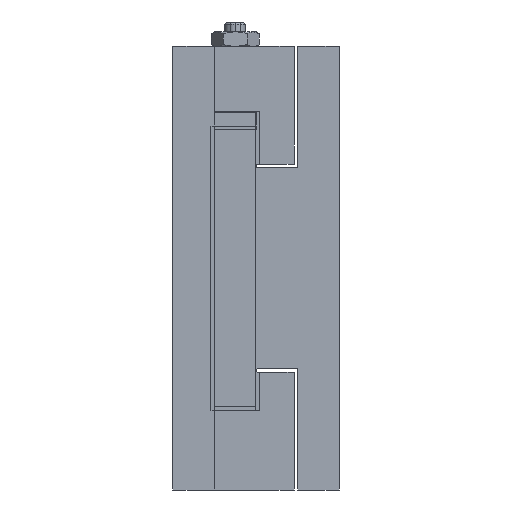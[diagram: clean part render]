
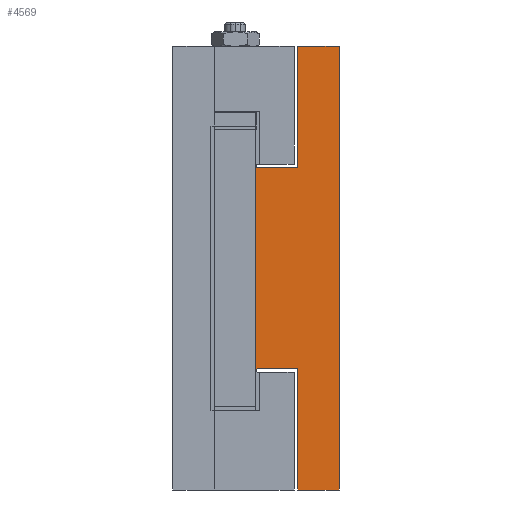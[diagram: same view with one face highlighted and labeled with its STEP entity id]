
A CAD part, left-side view. The second image highlights one B-rep face of the part: STEP entity #4569.
In plain terms, the highlighted planar face has unit normal (-1, 0, 0).
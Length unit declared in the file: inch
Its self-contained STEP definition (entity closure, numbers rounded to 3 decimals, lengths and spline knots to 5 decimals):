
#2498 = DIRECTION ( 'NONE',  ( 0., 1., 0. ) ) ;
#2499 = VECTOR ( 'NONE', #2498, 39.37008 ) ;
#2500 = CARTESIAN_POINT ( 'NONE',  ( 0., 0.75, 0.90625 ) ) ;
#2507 = LINE ( 'NONE', #2500, #2499 ) ;
#2522 = CARTESIAN_POINT ( 'NONE',  ( 0., 0.75, 0.90625 ) ) ;
#2530 = CARTESIAN_POINT ( 'NONE',  ( 0., 0.375, -2. ) ) ;
#2668 = DIRECTION ( 'NONE',  ( 0., 0., 1. ) ) ;
#2669 = VECTOR ( 'NONE', #2668, 39.37008 ) ;
#2670 = CARTESIAN_POINT ( 'NONE',  ( 0., 0.75, 2. ) ) ;
#2671 = LINE ( 'NONE', #2670, #2669 ) ;
#2815 = CARTESIAN_POINT ( 'NONE',  ( 0., 0.375, -0.90625 ) ) ;
#2853 = CARTESIAN_POINT ( 'NONE',  ( 0., 0., 2. ) ) ;
#2915 = CARTESIAN_POINT ( 'NONE',  ( 0., 0.375, -2. ) ) ;
#2916 = LINE ( 'NONE', #2915, #2956 ) ;
#2917 = CARTESIAN_POINT ( 'NONE',  ( 0., 0.375, 0.90625 ) ) ;
#2926 = CARTESIAN_POINT ( 'NONE',  ( 0., 0., -2. ) ) ;
#2928 = CARTESIAN_POINT ( 'NONE',  ( 0., 0.375, 2. ) ) ;
#2949 = DIRECTION ( 'NONE',  ( 0., -1., 0. ) ) ;
#2950 = VECTOR ( 'NONE', #2949, 39.37008 ) ;
#2951 = CARTESIAN_POINT ( 'NONE',  ( 0., 0.75, -0.90625 ) ) ;
#2952 = LINE ( 'NONE', #3010, #3009 ) ;
#2955 = DIRECTION ( 'NONE',  ( 0., 0., -1. ) ) ;
#2956 = VECTOR ( 'NONE', #2955, 39.37008 ) ;
#2957 = DIRECTION ( 'NONE',  ( 0., 0., -1. ) ) ;
#2958 = DIRECTION ( 'NONE',  ( 1., 0., 0. ) ) ;
#2959 = CARTESIAN_POINT ( 'NONE',  ( 0., 0., 2. ) ) ;
#2960 = LINE ( 'NONE', #2951, #2950 ) ;
#2962 = DIRECTION ( 'NONE',  ( 0., 0., -1. ) ) ;
#2963 = VECTOR ( 'NONE', #2962, 39.37008 ) ;
#2965 = PLANE ( 'NONE',  #2971 ) ;
#2970 = FACE_OUTER_BOUND ( 'NONE', #4499, .T. ) ;
#2971 = AXIS2_PLACEMENT_3D ( 'NONE', #2959, #2958, #2957 ) ;
#2976 = CARTESIAN_POINT ( 'NONE',  ( 0., 0., 2. ) ) ;
#2977 = LINE ( 'NONE', #2976, #2963 ) ;
#3008 = DIRECTION ( 'NONE',  ( 0., 1., 0. ) ) ;
#3009 = VECTOR ( 'NONE', #3008, 39.37008 ) ;
#3010 = CARTESIAN_POINT ( 'NONE',  ( 0., 0.75, -2. ) ) ;
#4306 = ORIENTED_EDGE ( 'NONE', *, *, #5339, .T. ) ;
#4310 = EDGE_CURVE ( 'NONE', #4562, #4353, #2507, .T. ) ;
#4336 = VERTEX_POINT ( 'NONE', #2530 ) ;
#4353 = VERTEX_POINT ( 'NONE', #2522 ) ;
#4410 = EDGE_CURVE ( 'NONE', #7546, #4353, #2671, .T. ) ;
#4467 = VERTEX_POINT ( 'NONE', #2815 ) ;
#4499 = EDGE_LOOP ( 'NONE', ( #4575, #4570, #4565, #4564, #5338, #4306, #4568, #5317 ) ) ;
#4517 = VERTEX_POINT ( 'NONE', #2853 ) ;
#4551 = VERTEX_POINT ( 'NONE', #2928 ) ;
#4562 = VERTEX_POINT ( 'NONE', #2917 ) ;
#4564 = ORIENTED_EDGE ( 'NONE', *, *, #4567, .F. ) ;
#4565 = ORIENTED_EDGE ( 'NONE', *, *, #4578, .F. ) ;
#4566 = VERTEX_POINT ( 'NONE', #2926 ) ;
#4567 = EDGE_CURVE ( 'NONE', #4517, #4566, #2977, .T. ) ;
#4568 = ORIENTED_EDGE ( 'NONE', *, *, #4310, .T. ) ;
#4569 = ADVANCED_FACE ( 'NONE', ( #2970 ), #2965, .F. ) ;
#4570 = ORIENTED_EDGE ( 'NONE', *, *, #4576, .T. ) ;
#4575 = ORIENTED_EDGE ( 'NONE', *, *, #4577, .T. ) ;
#4576 = EDGE_CURVE ( 'NONE', #4467, #4336, #2916, .T. ) ;
#4577 = EDGE_CURVE ( 'NONE', #7546, #4467, #2960, .T. ) ;
#4578 = EDGE_CURVE ( 'NONE', #4566, #4336, #2952, .T. ) ;
#5317 = ORIENTED_EDGE ( 'NONE', *, *, #4410, .F. ) ;
#5338 = ORIENTED_EDGE ( 'NONE', *, *, #5356, .F. ) ;
#5339 = EDGE_CURVE ( 'NONE', #4551, #4562, #5664, .T. ) ;
#5356 = EDGE_CURVE ( 'NONE', #4551, #4517, #5669, .T. ) ;
#5654 = DIRECTION ( 'NONE',  ( 0., -1., 0. ) ) ;
#5655 = VECTOR ( 'NONE', #5654, 39.37008 ) ;
#5656 = CARTESIAN_POINT ( 'NONE',  ( 0., 0.75, 2. ) ) ;
#5658 = DIRECTION ( 'NONE',  ( 0., 0., -1. ) ) ;
#5659 = VECTOR ( 'NONE', #5658, 39.37008 ) ;
#5660 = CARTESIAN_POINT ( 'NONE',  ( 0., 0.375, 2. ) ) ;
#5664 = LINE ( 'NONE', #5660, #5659 ) ;
#5669 = LINE ( 'NONE', #5656, #5655 ) ;
#6405 = CARTESIAN_POINT ( 'NONE',  ( 0., 0.75, -0.90625 ) ) ;
#7546 = VERTEX_POINT ( 'NONE', #6405 ) ;
